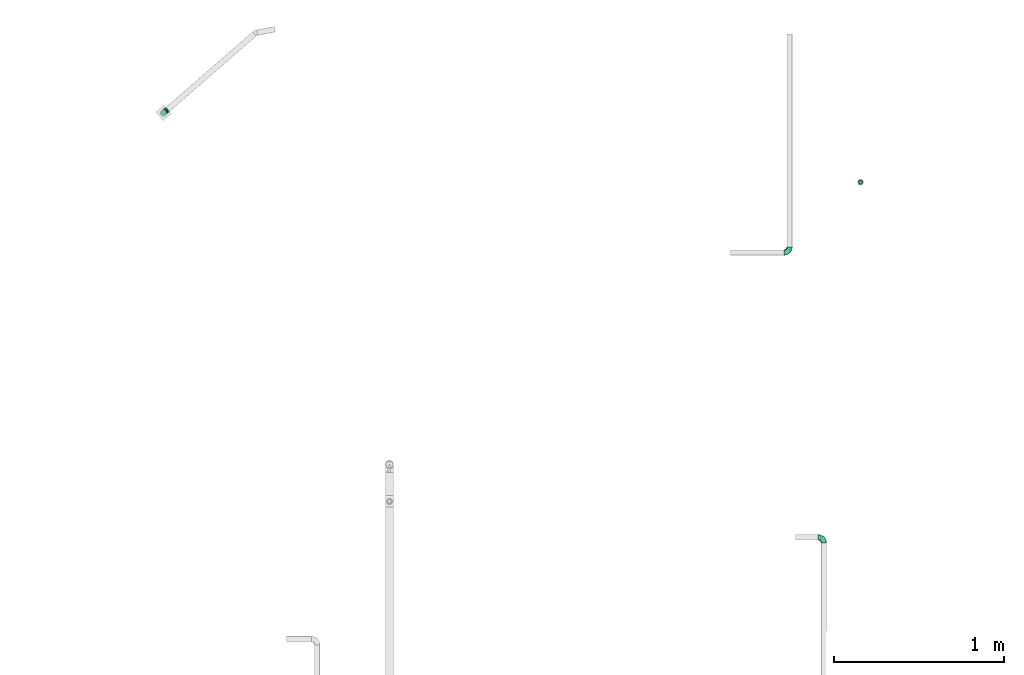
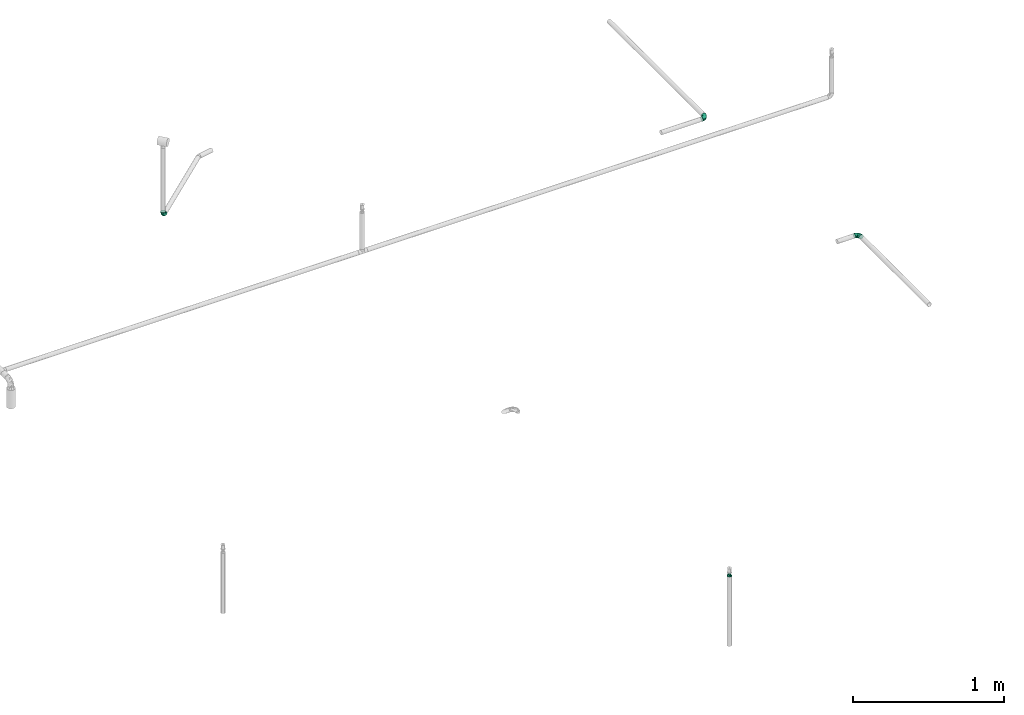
# One storey, part 35 of 63: 4 flow fittings.
"""IFC2X3 building model written with IfcOpenShell, lengths in millimetres."""

from ifc_helpers import new_model, entity, si_unit, converted_unit, derived_unit, direction, frame, origin_with_axes, place, context, subcontext, project, spatial, open_shell, surface_model, source, transform, mapped, type_object, element, save


model = new_model("IFC2X3")

# Units and contexts
model_context = context("Model", 3, precision=0.01, world=frame((0.0, 4.29681676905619e-09, 0.0)), true_north=direction((4.01073788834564e-13, 1.0)))
plan_context = context("Plan", 3, precision=0.01, world=frame((0.0, 4.29681676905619e-09, 0.0)), true_north=direction((4.01073788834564e-13, 1.0)))
body_context = subcontext(model_context, "Body", "Model", "MODEL_VIEW")
ifc_project = project(units=[converted_unit("PLANEANGLEUNIT", "DEGREE", entity("IfcPositiveLengthMeasure", 0.0174532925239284), si_unit("PLANEANGLEUNIT", "RADIAN"), dimensions=[0, 0, 0, 0, 0, 0, 0]), si_unit("AREAUNIT", "SQUARE_METRE"), si_unit("LENGTHUNIT", "METRE", prefix="MILLI"), si_unit("MASSUNIT", "GRAM", prefix="KILO"), si_unit("POWERUNIT", "WATT"), si_unit("PRESSUREUNIT", "PASCAL", prefix="KILO"), si_unit("FORCEUNIT", "NEWTON", prefix="KILO"), si_unit("ELECTRICVOLTAGEUNIT", "VOLT"), si_unit("ELECTRICCURRENTUNIT", "AMPERE"), si_unit("THERMODYNAMICTEMPERATUREUNIT", "DEGREE_CELSIUS"), si_unit("TIMEUNIT", "SECOND"), si_unit("VOLUMEUNIT", "CUBIC_METRE"), derived_unit("LINEARVELOCITYUNIT", [(si_unit("LENGTHUNIT", "METRE"), 1), (si_unit("TIMEUNIT", "SECOND"), -1)]), derived_unit("VOLUMETRICFLOWRATEUNIT", [(si_unit("VOLUMEUNIT", "CUBIC_METRE"), 1), (si_unit("TIMEUNIT", "SECOND"), -1)]), derived_unit("THERMALTRANSMITTANCEUNIT", [(si_unit("POWERUNIT", "WATT"), 1), (si_unit("THERMODYNAMICTEMPERATUREUNIT", "KELVIN"), -1), (si_unit("AREAUNIT", "SQUARE_METRE"), -1)]), derived_unit("SOUNDPRESSUREUNIT", [(si_unit("PRESSUREUNIT", "PASCAL"), 1)])], contexts=[model_context, plan_context])

# Site, building, storey
site_placement = place(None, frame((0.0, -4.29681676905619e-09, 0.0), z_axis=(0.0, 0.0, 1.0), x_axis=(1.0, 0.0, 0.0)))
site = spatial("IfcSite", under=ifc_project, at=site_placement, CompositionType="ELEMENT")
building_placement = place(site_placement, frame((0.0, 4.29681676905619e-09, 0.0), z_axis=(0.0, 0.0, 1.0), x_axis=(1.0, 0.0, 0.0)))
building = spatial("IfcBuilding", under=site, at=building_placement, Name="mc-building", CompositionType="ELEMENT")
storey_placement = place(building_placement, frame((0.0, 0.0, 207370.0), z_axis=(0.0, 0.0, 1.0), x_axis=(1.0, 0.0, 0.0)))
storey = spatial("IfcBuildingStorey", under=building, at=storey_placement, Name="Nivå E", CompositionType="ELEMENT", Elevation=207370.0)

# Flow fittings
pipe_fitting_type_1 = type_object("IfcPipeFittingType", Name="magi_pipe_fe_reducer_centric_short_NOR", PredefinedType="TRANSITION")
shared_shape_1 = source(origin_with_axes(), body_context, "Body", "SurfaceModel", [
    surface_model("IfcShellBasedSurfaceModel", [(14.4, 5.35, -9.26647), (14.4, 0.0, -10.7), (14.4, 2.76936, -10.33541), (14.4, 10.33541, -2.76936), (14.4, 7.56604, -7.56604), (14.4, -10.33541, -2.76936), (14.4, 9.26647, -5.35), (14.4, 0.0, 10.7), (14.4, -5.35, -9.26647), (14.4, -2.76936, -10.33541), (14.4, -7.56604, -7.56604), (14.4, -9.26647, -5.35), (14.4, 10.7, 0.0), (14.4, 10.33541, 2.76936), (14.4, 9.26647, 5.35), (14.4, 7.56604, 7.56604), (14.4, 2.76936, 10.33541), (14.4, 5.35, 9.26647), (14.4, -10.33541, 2.76936), (14.4, -7.56604, 7.56604), (14.4, -9.26647, 5.35), (14.4, -10.7, 0.0), (14.4, -2.76936, 10.33541), (14.4, -5.35, 9.26647), (12.4, 2.76936, 10.33541), (12.4, -10.33541, -2.76936), (12.4, 0.0, 10.7), (12.4, 5.35, 9.26647), (12.4, 7.56604, 7.56604), (12.4, 9.26647, 5.35), (12.4, 10.33541, 2.76936), (12.4, -10.33541, 2.76936), (12.4, -2.76936, 10.33541), (12.4, -7.56604, 7.56604), (12.4, -5.35, 9.26647), (12.4, -9.26647, 5.35), (12.4, -10.7, 0.0), (12.4, 10.33541, -2.76936), (12.4, 5.35, -9.26647), (12.4, 9.26647, -5.35), (12.4, 7.56604, -7.56604), (12.4, 2.76936, -10.33541), (12.4, -9.26647, -5.35), (12.4, -5.35, -9.26647), (12.4, -7.56604, -7.56604), (12.4, 0.0, -10.7), (12.4, -2.76936, -10.33541), (12.4, 10.7, 0.0), (-2.0, 11.9501, 11.9501), (-2.0, 0.0, 16.9), (-2.0, 4.37404, 16.32415), (-2.0, 8.45, 14.63583), (-2.0, 14.63583, 8.45), (-2.0, 16.32415, 4.37404), (-2.0, -16.32415, 4.37404), (-2.0, -8.45, 14.63583), (-2.0, -14.63583, 8.45), (-2.0, -11.9501, 11.9501), (-2.0, -4.37404, 16.32415), (-2.0, -16.32415, -4.37404), (-2.0, -16.9, 0.0), (-2.0, -8.45, -14.63583), (-2.0, 16.32415, -4.37404), (-2.0, 11.9501, -11.9501), (-2.0, 14.63583, -8.45), (-2.0, 8.45, -14.63583), (-2.0, 4.37404, -16.32415), (-2.0, 0.0, -16.9), (-2.0, -11.9501, -11.9501), (-2.0, -14.63583, -8.45), (-2.0, -4.37404, -16.32415), (-2.0, 16.9, 0.0), (0.0, 4.37404, -16.32415), (0.0, 8.45, -14.63583), (0.0, 11.9501, -11.9501), (0.0, 0.0, -16.9), (0.0, 16.32415, -4.37404), (0.0, 16.32415, 4.37404), (0.0, 14.63583, -8.45), (0.0, -8.45, -14.63583), (0.0, -4.37404, -16.32415), (0.0, -11.9501, -11.9501), (0.0, -16.32415, -4.37404), (0.0, -14.63583, -8.45), (0.0, -16.32415, 4.37404), (0.0, 16.9, 0.0), (0.0, 14.63583, 8.45), (0.0, 11.9501, 11.9501), (0.0, 4.37404, 16.32415), (0.0, 8.45, 14.63583), (0.0, 0.0, 16.9), (0.0, -14.63583, 8.45), (0.0, -16.9, 0.0), (0.0, -8.45, 14.63583), (0.0, -11.9501, 11.9501), (0.0, -4.37404, 16.32415), (12.4, 9.3625, -2.31662), (0.0, 14.42505, -5.97505), (0.0, 15.66253, -2.98753), (12.4, -6.6875, -6.94985), (0.0, -13.18758, -8.96258), (0.0, 2.98753, -15.66253), (12.4, 0.0, -9.26647), (12.4, 6.6875, -6.94985), (0.0, 8.96258, -13.18758), (12.4, -9.3625, -2.31662), (0.0, -15.66253, -2.98753), (0.0, -14.42505, -5.97505), (0.0, 5.97505, -14.42505), (0.0, -2.98753, -15.66253), (0.0, -8.96258, -13.18758), (0.0, 13.18758, -8.96258), (12.4, 8.025, -4.63324), (12.4, -2.675, -9.26647), (12.4, 2.675, -9.26647), (0.0, -5.97505, -14.42505), (12.4, -8.025, -4.63324), (12.4, -9.3625, 2.31662), (0.0, -14.42505, 5.97505), (0.0, -15.66253, 2.98753), (12.4, 6.6875, 6.94985), (0.0, 13.18758, 8.96258), (0.0, -2.98753, 15.66253), (12.4, 0.0, 9.26647), (12.4, -6.6875, 6.94985), (0.0, -8.96258, 13.18758), (12.4, 9.3625, 2.31662), (0.0, 15.66253, 2.98753), (0.0, 14.42505, 5.97505), (0.0, -5.97505, 14.42505), (0.0, 2.98753, 15.66253), (0.0, 8.96258, 13.18758), (0.0, -13.18758, 8.96258), (12.4, -8.025, 4.63324), (12.4, 2.675, 9.26647), (12.4, -2.675, 9.26647), (0.0, 5.97505, 14.42505), (12.4, 8.025, 4.63324)], [open_shell([[[0, 1, 2]], [[3, 0, 4]], [[5, 0, 3]], [[3, 4, 6]], [[7, 5, 3]], [[1, 8, 9]], [[1, 0, 8]], [[10, 5, 11]], [[5, 10, 8]], [[0, 5, 8]], [[3, 12, 13]], [[13, 14, 15]], [[13, 15, 16]], [[7, 3, 16]], [[16, 15, 17]], [[7, 18, 5]], [[18, 19, 20]], [[21, 5, 18]], [[19, 22, 23]], [[22, 19, 18]], [[7, 22, 18]], [[13, 16, 3]], [[24, 25, 26]], [[27, 25, 24]], [[28, 29, 30]], [[28, 25, 27]], [[31, 26, 25]], [[32, 33, 34]], [[33, 32, 31]], [[33, 31, 35]], [[32, 26, 31]], [[31, 25, 36]], [[30, 37, 28]], [[25, 28, 37]], [[38, 37, 39]], [[37, 38, 25]], [[38, 39, 40]], [[41, 25, 38]], [[42, 43, 44]], [[43, 42, 25]], [[43, 45, 46]], [[43, 25, 41]], [[41, 45, 43]], [[37, 30, 47]], [[25, 5, 36]], [[42, 11, 25]], [[8, 44, 43]], [[42, 44, 10]], [[9, 43, 46]], [[25, 11, 5]], [[5, 21, 36]], [[9, 8, 43]], [[10, 44, 8]], [[10, 11, 42]], [[1, 9, 46]], [[46, 45, 1]], [[41, 2, 45]], [[38, 0, 41]], [[6, 40, 39]], [[38, 40, 4]], [[3, 39, 37]], [[38, 4, 0]], [[0, 2, 41]], [[12, 3, 37]], [[6, 39, 3]], [[6, 4, 40]], [[47, 12, 37]], [[45, 2, 1]], [[30, 13, 47]], [[29, 14, 30]], [[17, 28, 27]], [[29, 28, 15]], [[16, 27, 24]], [[30, 14, 13]], [[13, 12, 47]], [[16, 17, 27]], [[15, 28, 17]], [[15, 14, 29]], [[7, 16, 24]], [[24, 26, 7]], [[32, 22, 26]], [[34, 23, 32]], [[20, 33, 35]], [[34, 33, 19]], [[18, 35, 31]], [[34, 19, 23]], [[23, 22, 32]], [[21, 18, 31]], [[20, 35, 18]], [[20, 19, 33]], [[36, 21, 31]], [[26, 22, 7]], [[48, 49, 50]], [[48, 50, 51]], [[48, 52, 53]], [[48, 53, 49]], [[49, 53, 54]], [[55, 56, 57]], [[55, 58, 49]], [[56, 55, 49]], [[49, 54, 56]], [[54, 59, 60]], [[54, 53, 61]], [[53, 62, 63]], [[63, 62, 64]], [[63, 65, 66]], [[61, 53, 63]], [[67, 63, 66]], [[59, 68, 69]], [[68, 59, 61]], [[61, 67, 70]], [[59, 54, 61]], [[63, 67, 61]], [[53, 71, 62]], [[72, 73, 74]], [[75, 72, 74]], [[74, 76, 77]], [[76, 74, 78]], [[74, 77, 79]], [[75, 79, 80]], [[75, 74, 79]], [[81, 82, 83]], [[82, 81, 79]], [[79, 84, 82]], [[77, 76, 85]], [[77, 86, 87]], [[77, 87, 88]], [[88, 84, 79]], [[88, 87, 89]], [[84, 88, 90]], [[90, 91, 84]], [[92, 82, 84]], [[91, 93, 94]], [[91, 90, 93]], [[93, 90, 95]], [[79, 77, 88]], [[59, 82, 60]], [[69, 83, 59]], [[79, 68, 61]], [[69, 68, 81]], [[80, 61, 70]], [[59, 83, 82]], [[82, 92, 60]], [[80, 79, 61]], [[81, 68, 79]], [[81, 83, 69]], [[75, 80, 70]], [[70, 67, 75]], [[66, 72, 67]], [[65, 73, 66]], [[78, 63, 64]], [[65, 63, 74]], [[76, 64, 62]], [[65, 74, 73]], [[73, 72, 66]], [[85, 76, 62]], [[78, 64, 76]], [[78, 74, 63]], [[71, 85, 62]], [[67, 72, 75]], [[53, 77, 71]], [[52, 86, 53]], [[89, 48, 51]], [[52, 48, 87]], [[88, 51, 50]], [[53, 86, 77]], [[77, 85, 71]], [[88, 89, 51]], [[87, 48, 89]], [[87, 86, 52]], [[90, 88, 50]], [[50, 49, 90]], [[58, 95, 49]], [[55, 93, 58]], [[91, 57, 56]], [[55, 57, 94]], [[84, 56, 54]], [[55, 94, 93]], [[93, 95, 58]], [[92, 84, 54]], [[91, 56, 84]], [[91, 94, 57]], [[60, 92, 54]], [[49, 95, 90]], [[27, 34, 47]], [[47, 34, 43]], [[43, 38, 47]], [[43, 34, 36]], [[90, 87, 94]], [[92, 94, 87]], [[87, 74, 92]], [[75, 92, 74]], [[81, 92, 75]], [[74, 87, 85]], [[96, 97, 98]], [[81, 99, 100]], [[101, 102, 75]], [[98, 85, 47]], [[74, 103, 104]], [[104, 103, 38]], [[105, 106, 107]], [[38, 108, 104]], [[102, 109, 75]], [[110, 99, 81]], [[47, 96, 98]], [[103, 111, 112]], [[109, 102, 113]], [[36, 92, 106]], [[102, 101, 114]], [[110, 115, 43]], [[96, 112, 97]], [[107, 116, 105]], [[36, 106, 105]], [[113, 115, 109]], [[43, 115, 113]], [[116, 107, 100]], [[108, 38, 114]], [[111, 103, 74]], [[111, 97, 112]], [[99, 110, 43]], [[116, 100, 99]], [[101, 108, 114]], [[117, 118, 119]], [[87, 120, 121]], [[122, 123, 90]], [[119, 92, 36]], [[94, 124, 125]], [[125, 124, 34]], [[126, 127, 128]], [[34, 129, 125]], [[123, 130, 90]], [[131, 120, 87]], [[36, 117, 119]], [[124, 132, 133]], [[130, 123, 134]], [[47, 85, 127]], [[123, 122, 135]], [[131, 136, 27]], [[117, 133, 118]], [[128, 137, 126]], [[47, 127, 126]], [[134, 136, 130]], [[27, 136, 134]], [[137, 128, 121]], [[129, 34, 135]], [[132, 124, 94]], [[132, 118, 133]], [[120, 131, 27]], [[137, 121, 120]], [[122, 129, 135]]])]),
])
flow_fitting_placement = place(storey_placement, frame((722417.8031, 441293.31989, 3018.36794), z_axis=(0.0, -1.0, 0.0), x_axis=(0.0, 0.0, 1.0)))
element("IfcFlowFitting", 1, at=flow_fitting_placement, inside=storey, type_object=pipe_fitting_type_1, Name="magi_pipe_fe_reducer_centric_short_NOR", context=body_context, shape_type="MappedRepresentation", body=[
    mapped(shared_shape_1, transform((0.0, 0.0, 0.0), scale=1.0)),
])
pipe_fitting_type_2 = type_object("IfcPipeFittingType", Name="magi_pipe_fe_elbow_short_001", PredefinedType="BEND")
shared_shape_2 = source(origin_with_axes(), body_context, "Body", "SurfaceModel", [
    surface_model("IfcShellBasedSurfaceModel", [(-33.8, 8.45, -14.63583), (-33.8, 4.37404, -16.32415), (-33.8, 11.9501, -11.9501), (-33.8, -11.9501, -11.9501), (-33.8, -14.63583, -8.45), (-33.8, -8.45, -14.63583), (-33.8, 0.0, -16.9), (-33.8, -4.37404, -16.32415), (-33.8, -4.37404, 16.32415), (-33.8, 0.0, 16.9), (-33.8, -8.45, 14.63583), (-33.8, 16.32415, -4.37404), (-33.8, 14.63583, -8.45), (-33.8, -16.32415, -4.37404), (-33.8, -16.9, 0.0), (-33.8, -16.32415, 4.37404), (-33.8, 11.9501, 11.9501), (-33.8, 14.63583, 8.45), (-33.8, 16.32415, 4.37404), (-33.8, 4.37404, 16.32415), (-33.8, 8.45, 14.63583), (-33.8, -14.63583, 8.45), (-33.8, -11.9501, 11.9501), (-33.8, 16.9, 0.0), (-11.9501, 33.8, -11.9501), (0.0, 33.8, -16.9), (-4.37404, 33.8, -16.32415), (-8.45, 33.8, -14.63583), (-14.63583, 33.8, -8.45), (-16.32415, 33.8, -4.37404), (14.63583, 33.8, -8.45), (8.45, 33.8, 14.63583), (16.32415, 33.8, -4.37404), (8.45, 33.8, -14.63583), (11.9501, 33.8, -11.9501), (4.37404, 33.8, -16.32415), (16.32415, 33.8, 4.37404), (16.9, 33.8, 0.0), (-11.9501, 33.8, 11.9501), (-16.32415, 33.8, 4.37404), (-14.63583, 33.8, 8.45), (-8.45, 33.8, 14.63583), (-4.37404, 33.8, 16.32415), (11.9501, 33.8, 11.9501), (14.63583, 33.8, 8.45), (0.0, 33.8, 16.9), (4.37404, 33.8, 16.32415), (-16.9, 33.8, 0.0), (-24.79389, -13.12945, 9.48721), (-22.19287, -9.75018, 12.59315), (-24.09897, -14.97035, 0.0), (-14.93934, -10.76256, 8.5297), (-22.46095, -14.75051, 5.27077), (14.75051, 22.46094, 5.27077), (11.9251, 13.23888, 4.33236), (13.04069, 14.39795, 0.0), (7.71387, 13.68847, 11.55891), (9.75018, 22.19287, 12.59315), (4.10169, 13.0571, 14.04018), (-24.84007, -6.39063, 15.2048), (-25.81779, -2.23879, 16.61097), (-23.66549, 2.59054, 16.87119), (-26.50418, 14.06512, 11.08152), (-24.21253, 17.66365, 7.72657), (-29.58514, 15.86957, 7.00283), (-6.17382, -7.5455, 0.0), (-13.23888, -11.9251, 4.33236), (-14.39795, -13.04069, 0.0), (-17.81434, 18.87373, 11.97104), (-6.30846, 29.15138, 15.82987), (-2.31622, 25.28002, 16.85849), (-29.23923, 10.23435, 13.77053), (-1.45439, -2.85688, 7.61475), (-0.28326, 0.34872, 10.09509), (-5.74484, -4.04709, 10.4122), (-4.41137, 11.31918, 16.59407), (-8.39727, 3.10034, 15.7812), (-1.72649, 9.1306, 15.53089), (-17.39909, 24.75344, 7.64977), (-26.19233, 20.0512, 0.0), (-28.14518, 17.29657, 4.25857), (-26.05147, 6.6281, 15.96447), (-5.87354, 16.61944, 16.86968), (-12.51807, 12.51807, 16.48937), (-10.06312, 7.38516, 16.81295), (-3.01882, 3.01882, 13.81718), (-13.0571, -4.10169, 14.04018), (-16.82553, -0.15166, 16.38038), (10.76256, 14.93934, 8.5297), (13.12945, 24.79389, 9.48721), (6.39063, 24.84007, 15.2048), (2.23879, 25.81779, 16.61097), (-13.68847, -7.71387, 11.55891), (14.97035, 24.09897, 0.0), (-7.30894, 22.89991, 16.09489), (-10.67958, 26.17414, 14.008), (-12.78295, 18.26924, 15.06066), (-13.88562, 22.45231, 12.93244), (-18.04944, 15.16501, 14.04434), (-23.11658, 20.08178, 4.02986), (-21.84989, 21.84989, 0.0), (-18.55817, 25.48277, 3.93065), (-13.95142, 26.94732, 11.03289), (-18.57098, 7.23906, 16.59756), (-16.58335, 4.14122, 16.89279), (-17.96666, 11.46709, 15.63151), (-9.84453, 17.54304, 16.18938), (0.15166, 16.82553, 16.38038), (-23.27207, 11.47201, 14.23154), (3.84842, 5.86994, 10.70473), (-8.0212, -7.54413, 7.93275), (1.00345, -2.19508, 4.57414), (5.13203, 3.01004, 5.90201), (5.24161, 1.7543, 2.53265), (8.70457, 7.04947, 3.99182), (-20.0512, 26.19233, 0.0), (8.4852, 8.76699, 7.09296), (-4.55488, -6.72064, 4.90681), (2.05031, -2.05031, 0.0), (7.5455, 6.17382, 0.0), (-26.75399, 2.1369, -16.845), (-14.61995, 24.73803, -11.27736), (-28.45274, -13.45335, -9.81895), (-26.00469, 6.63555, -15.96645), (-23.06726, 20.04573, -4.26202), (-13.80647, -4.26506, -14.17873), (-14.67501, -0.21081, -16.07388), (-6.7902, -0.2828, -13.8478), (-24.53586, 11.08096, -14.13417), (-26.72048, 14.00837, -11.05776), (10.0967, 24.44989, -12.75976), (5.83237, 21.40218, -15.03047), (6.66249, 28.54238, -15.38093), (-20.38182, 15.48705, -12.74596), (12.53268, 21.23441, -9.15363), (12.54494, 15.67504, -5.54878), (9.7522, 12.89279, -8.66343), (-15.65186, 19.64213, -13.01327), (-12.03528, 20.66498, -14.67665), (-15.61907, 15.61906, -14.83879), (-25.56551, -15.26206, 0.0), (-24.65452, -15.12934, -5.50955), (13.45335, 28.45274, -9.81895), (15.12934, 24.65452, -5.50955), (-7.35442, -8.31014, -5.65563), (-15.67504, -12.54494, -5.54878), (-24.44989, -10.0967, -12.75976), (0.16522, 0.41303, -9.71728), (-5.70658, -5.33066, -8.89288), (-5.13869, -2.37198, -11.53565), (-21.23441, -12.53268, -9.15363), (0.71146, 7.93863, -14.09382), (0.21081, 14.67501, -16.07388), (3.49291, 14.42772, -14.76381), (-24.89911, -2.13088, -16.591), (-28.54238, -6.66249, -15.38093), (-18.44386, -7.71663, -13.26957), (2.13088, 24.89911, -16.591), (-28.64342, 17.44413, -2.89318), (1.70017, -1.28722, -5.09504), (-16.57067, 26.81947, -7.36596), (-17.69055, 27.4263, -3.76405), (-12.89279, -9.7522, -8.66343), (-5.96611, 5.96611, -15.95814), (-20.53709, 20.09345, -8.28985), (-2.1369, 26.75399, -16.845), (-6.89872, 24.58781, -16.02578), (-10.60739, 26.53157, -13.98044), (-21.40218, -5.83237, -15.03047), (2.93192, 5.89627, -11.55917), (6.89393, 12.61842, -11.82233), (5.58056, 5.95325, -8.79455), (-3.99512, 18.61798, -16.89635), (8.31014, 7.35442, -5.65563), (-9.1383, 9.86148, -16.89041), (-9.99983, 16.02119, -16.39699), (-16.68576, 9.78031, -16.34199), (-27.01915, 16.61158, -7.12979), (15.26206, 25.56551, 0.0), (-18.61798, 3.99512, -16.89635), (-19.37495, 27.82495, 0.0), (-12.61842, -6.89393, -11.82233), (-18.84705, 19.14018, -10.96545)], [open_shell([[[0, 1, 2]], [[3, 4, 5]], [[6, 7, 5]], [[8, 9, 10]], [[1, 6, 2]], [[11, 12, 2]], [[4, 2, 6]], [[2, 13, 10]], [[5, 4, 6]], [[2, 4, 13]], [[14, 15, 13]], [[11, 2, 16]], [[11, 17, 18]], [[11, 16, 17]], [[19, 20, 16]], [[16, 2, 10]], [[19, 16, 10]], [[21, 22, 15]], [[22, 13, 15]], [[22, 10, 13]], [[10, 9, 19]], [[11, 18, 23]], [[24, 25, 26]], [[24, 26, 27]], [[24, 28, 29]], [[25, 24, 30]], [[31, 32, 24]], [[33, 30, 34]], [[33, 35, 25]], [[25, 30, 33]], [[32, 30, 24]], [[32, 36, 37]], [[38, 24, 29]], [[39, 40, 29]], [[40, 38, 29]], [[38, 41, 42]], [[38, 31, 24]], [[31, 38, 42]], [[36, 43, 44]], [[36, 32, 43]], [[31, 45, 46]], [[32, 31, 43]], [[42, 45, 31]], [[39, 29, 47]], [[22, 48, 49]], [[15, 14, 50]], [[51, 48, 52]], [[53, 54, 55]], [[48, 22, 21]], [[15, 52, 21]], [[56, 57, 58]], [[49, 10, 22]], [[49, 59, 10]], [[9, 60, 61]], [[62, 63, 64]], [[65, 66, 67]], [[57, 43, 31]], [[62, 68, 63]], [[42, 69, 70]], [[20, 71, 16]], [[8, 60, 9]], [[72, 73, 74]], [[75, 76, 77]], [[16, 62, 17]], [[40, 39, 78]], [[79, 23, 80]], [[64, 18, 17]], [[9, 61, 19]], [[19, 81, 20]], [[82, 83, 84]], [[74, 85, 86]], [[59, 86, 87]], [[88, 89, 57]], [[90, 31, 46]], [[44, 53, 36]], [[46, 45, 91]], [[54, 53, 88]], [[44, 89, 53]], [[92, 86, 49]], [[89, 44, 43]], [[10, 59, 8]], [[53, 55, 93]], [[93, 36, 53]], [[66, 52, 67]], [[94, 82, 70]], [[95, 96, 94]], [[97, 98, 96]], [[79, 99, 100]], [[41, 38, 95]], [[101, 100, 99]], [[68, 78, 63]], [[42, 41, 69]], [[23, 18, 80]], [[95, 94, 69]], [[78, 101, 99]], [[38, 102, 95]], [[70, 45, 42]], [[97, 95, 102]], [[15, 50, 52]], [[90, 57, 31]], [[57, 90, 58]], [[81, 19, 61]], [[103, 104, 84]], [[105, 81, 103]], [[38, 40, 102]], [[106, 96, 83]], [[94, 106, 82]], [[91, 70, 107]], [[71, 62, 16]], [[62, 108, 98]], [[86, 59, 49]], [[67, 52, 50]], [[60, 59, 87]], [[92, 49, 51]], [[86, 85, 76]], [[91, 90, 46]], [[37, 36, 93]], [[107, 77, 58]], [[107, 58, 90]], [[58, 85, 109]], [[110, 74, 92]], [[72, 74, 110]], [[66, 51, 52]], [[72, 111, 112]], [[113, 114, 112]], [[56, 88, 57]], [[52, 48, 21]], [[49, 48, 51]], [[57, 89, 43]], [[53, 89, 88]], [[103, 81, 61]], [[71, 81, 108]], [[18, 64, 80]], [[63, 78, 99]], [[47, 115, 101]], [[101, 115, 100]], [[40, 78, 102]], [[68, 102, 78]], [[97, 96, 95]], [[105, 98, 108]], [[103, 84, 83]], [[107, 70, 82]], [[76, 84, 87]], [[82, 84, 75]], [[70, 91, 45]], [[90, 91, 107]], [[59, 60, 8]], [[61, 60, 87]], [[73, 85, 74]], [[109, 112, 116]], [[103, 61, 104]], [[105, 103, 83]], [[96, 105, 83]], [[81, 105, 108]], [[96, 98, 105]], [[62, 98, 68]], [[61, 87, 104]], [[87, 84, 104]], [[86, 76, 87]], [[77, 76, 85]], [[58, 77, 85]], [[75, 77, 107]], [[82, 75, 107]], [[76, 75, 84]], [[81, 71, 20]], [[62, 71, 108]], [[95, 69, 41]], [[70, 69, 94]], [[62, 64, 17]], [[80, 63, 99]], [[63, 80, 64]], [[80, 99, 79]], [[66, 65, 117]], [[110, 66, 117]], [[112, 114, 116]], [[118, 117, 65]], [[110, 92, 51]], [[112, 111, 113]], [[119, 55, 54]], [[74, 86, 92]], [[58, 109, 56]], [[116, 56, 109]], [[66, 110, 51]], [[72, 110, 117]], [[111, 72, 117]], [[73, 112, 109]], [[117, 118, 111]], [[113, 111, 118]], [[118, 119, 113]], [[114, 119, 54]], [[119, 114, 113]], [[116, 54, 88]], [[54, 116, 114]], [[116, 88, 56]], [[112, 73, 72]], [[85, 73, 109]], [[78, 39, 101]], [[47, 101, 39]], [[102, 68, 97]], [[97, 68, 98]], [[82, 106, 83]], [[94, 96, 106]], [[1, 120, 6]], [[28, 24, 121]], [[3, 122, 4]], [[0, 123, 1]], [[100, 124, 79]], [[125, 126, 127]], [[128, 2, 129]], [[130, 131, 132]], [[128, 129, 133]], [[134, 135, 136]], [[137, 138, 139]], [[128, 0, 2]], [[67, 140, 141]], [[134, 142, 143]], [[141, 13, 4]], [[144, 65, 145]], [[146, 3, 5]], [[147, 148, 149]], [[145, 141, 150]], [[151, 152, 153]], [[154, 7, 6]], [[5, 155, 146]], [[150, 146, 156]], [[155, 5, 7]], [[143, 135, 134]], [[35, 157, 25]], [[23, 79, 158]], [[148, 159, 144]], [[160, 161, 29]], [[145, 162, 144]], [[163, 152, 151]], [[29, 28, 160]], [[121, 164, 160]], [[33, 34, 130]], [[25, 165, 26]], [[26, 165, 166]], [[142, 34, 30]], [[24, 27, 167]], [[124, 161, 164]], [[157, 35, 132]], [[155, 154, 168]], [[123, 0, 128]], [[169, 170, 171]], [[172, 157, 152]], [[26, 166, 27]], [[132, 35, 33]], [[142, 130, 34]], [[168, 154, 126]], [[136, 135, 173]], [[133, 137, 139]], [[2, 12, 129]], [[170, 131, 130]], [[30, 32, 143]], [[172, 174, 175]], [[176, 123, 128]], [[158, 177, 11]], [[135, 55, 119]], [[167, 27, 166]], [[175, 166, 172]], [[137, 167, 138]], [[122, 141, 4]], [[140, 14, 13]], [[32, 37, 178]], [[170, 130, 134]], [[152, 157, 131]], [[165, 157, 172]], [[153, 170, 151]], [[152, 163, 174]], [[168, 125, 156]], [[122, 146, 150]], [[120, 154, 6]], [[179, 174, 126]], [[179, 126, 154]], [[126, 163, 127]], [[162, 145, 150]], [[140, 13, 141]], [[32, 178, 143]], [[55, 143, 178]], [[177, 129, 12]], [[128, 133, 139]], [[176, 128, 139]], [[120, 123, 179]], [[121, 160, 28]], [[161, 100, 180]], [[166, 175, 138]], [[121, 24, 167]], [[161, 47, 29]], [[79, 124, 158]], [[124, 164, 177]], [[161, 124, 100]], [[136, 171, 170]], [[127, 163, 151]], [[147, 171, 159]], [[148, 144, 162]], [[127, 151, 169]], [[127, 181, 125]], [[129, 177, 164]], [[12, 11, 177]], [[159, 65, 144]], [[67, 141, 145]], [[143, 55, 135]], [[135, 119, 173]], [[123, 120, 1]], [[154, 120, 179]], [[157, 165, 25]], [[166, 165, 172]], [[172, 152, 174]], [[176, 139, 175]], [[126, 174, 163]], [[176, 174, 179]], [[174, 176, 175]], [[123, 176, 179]], [[150, 181, 162]], [[127, 149, 181]], [[181, 148, 162]], [[159, 148, 147]], [[171, 136, 173]], [[170, 134, 136]], [[159, 171, 173]], [[171, 147, 169]], [[169, 147, 149]], [[151, 170, 169]], [[164, 182, 129]], [[182, 121, 137]], [[181, 149, 148]], [[169, 149, 127]], [[182, 137, 133]], [[167, 137, 121]], [[166, 138, 167]], [[175, 139, 138]], [[129, 182, 133]], [[121, 182, 164]], [[161, 160, 164]], [[47, 161, 180]], [[177, 158, 124]], [[23, 158, 11]], [[130, 132, 33]], [[157, 132, 131]], [[143, 142, 30]], [[130, 142, 134]], [[154, 155, 7]], [[146, 155, 168]], [[146, 122, 3]], [[141, 122, 150]], [[152, 131, 153]], [[159, 119, 118]], [[67, 145, 65]], [[170, 153, 131]], [[119, 159, 173]], [[159, 118, 65]], [[156, 125, 181]], [[126, 125, 168]], [[150, 156, 181]], [[168, 156, 146]]])]),
])
for number, where, z_axis, x_axis, name in (
    (2, (718309.59905, 441700.3416, 7130.0), (0.65605880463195, -0.754709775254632, 0.0), (0.0, 0.0, -1.0), "magi_pipe_fe_elbow_short_001"),
    (3, (722201.53694, 439200.7, 7130.0), (0.0, 0.0, 1.0), (0.0, 1.0, 0.0), "magi_pipe_fe_elbow_short_001"),
    (4, (722000.0, 440878.08755, 7130.0), (0.0, 0.0, 1.0), (1.0, 0.0, 0.0), "magi_pipe_fe_elbow_short_001"),
):
    element("IfcFlowFitting", number, at=place(storey_placement, frame(where, z_axis=z_axis, x_axis=x_axis)), inside=storey, type_object=pipe_fitting_type_2, Name=name, context=body_context, shape_type="MappedRepresentation", body=[
        mapped(shared_shape_2, transform((0.0, 0.0, 0.0), scale=1.0)),
    ])

save(model, "model.ifc")
